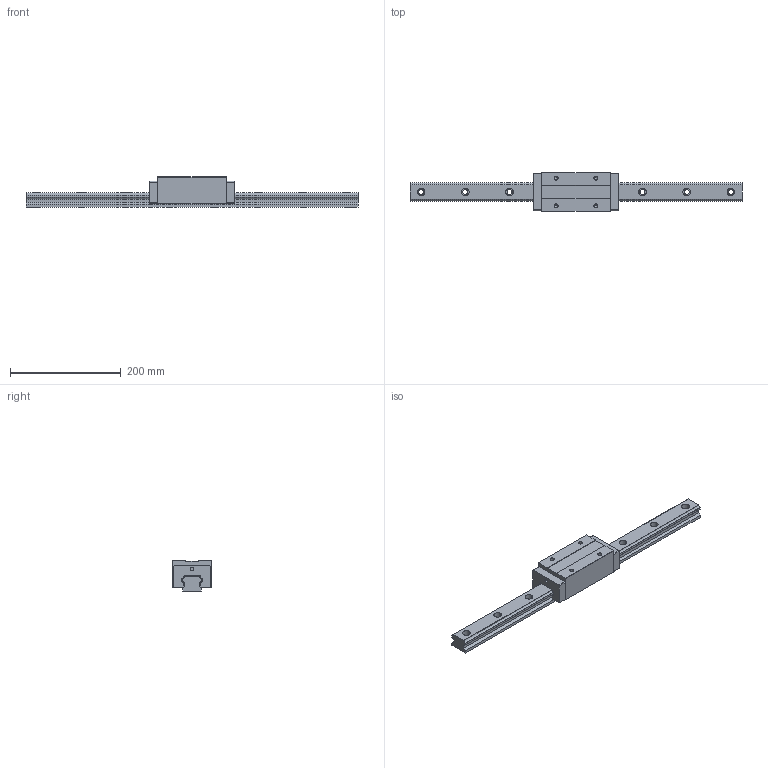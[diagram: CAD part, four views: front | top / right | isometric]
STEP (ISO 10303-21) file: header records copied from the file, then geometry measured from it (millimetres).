
FILE_DESCRIPTION (( 'STEP AP203' ), '1' );
FILE_NAME ('TRH35VE-XN.STEP', '2023-02-01T09:26:41', ( '' ), ( '' ), 'SwSTEP 2.0', 'SolidWorks 2019', '' );
FILE_SCHEMA (( 'CONFIG_CONTROL_DESIGN' ));
Length unit declared in the file: millimetre
Products named in the file (1): TRH35VE-XN
Bounding box: 600 x 70 x 55 mm (x, y, z)
Volume: 845644.6 mm3; surface area: 138924.3 mm2
Topology: 4 solids, 4 shells, 162 faces, 416 edges, 268 vertices
Faces by surface type: plane 82, cylinder 64, cone 16
Entity records: 4975 total; most frequent: DIRECTION 870, CARTESIAN_POINT 839, ORIENTED_EDGE 816, EDGE_CURVE 408, AXIS2_PLACEMENT_3D 299, LINE 272, VECTOR 272, VERTEX_POINT 268
